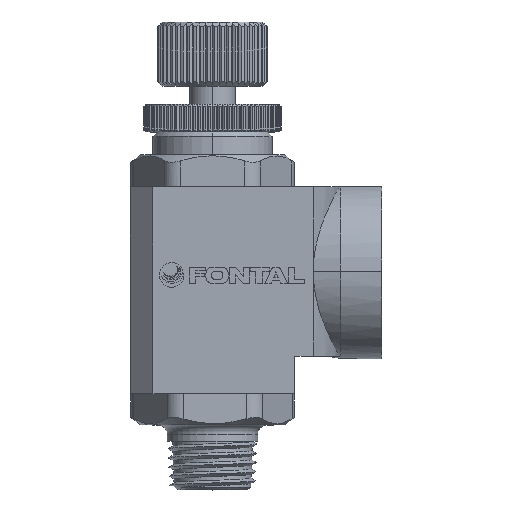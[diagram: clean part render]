
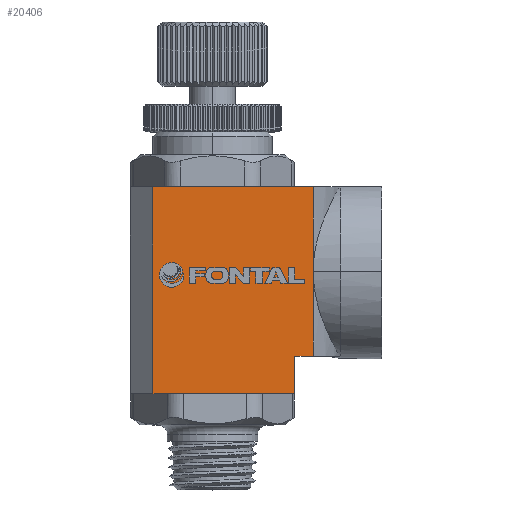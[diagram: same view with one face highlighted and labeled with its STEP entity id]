
A CAD part, top view. The second image highlights one B-rep face of the part: STEP entity #20406.
In plain terms, the highlighted planar face has unit normal (0, 0, 1).
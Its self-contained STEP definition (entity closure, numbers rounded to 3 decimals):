
#34 = VERTEX_POINT ( 'NONE', #5061 ) ;
#584 = LINE ( 'NONE', #20075, #6306 ) ;
#1358 = EDGE_CURVE ( 'NONE', #13882, #24447, #584, .T. ) ;
#1534 = LINE ( 'NONE', #5558, #4065 ) ;
#2242 = ORIENTED_EDGE ( 'NONE', *, *, #18010, .T. ) ;
#2433 = EDGE_CURVE ( 'NONE', #4908, #13882, #26165, .T. ) ;
#3369 = CARTESIAN_POINT ( 'NONE',  ( -9., 0., 9. ) ) ;
#3754 = DIRECTION ( 'NONE',  ( 1., 0., 0. ) ) ;
#4065 = VECTOR ( 'NONE', #3754, 1000. ) ;
#4731 = CARTESIAN_POINT ( 'NONE',  ( 11., 22.6, 9. ) ) ;
#4856 = EDGE_CURVE ( 'NONE', #5436, #14167, #10897, .T. ) ;
#4908 = VERTEX_POINT ( 'NONE', #13995 ) ;
#5061 = CARTESIAN_POINT ( 'NONE',  ( -6.5, 22.6, 9. ) ) ;
#5436 = VERTEX_POINT ( 'NONE', #17758 ) ;
#5558 = CARTESIAN_POINT ( 'NONE',  ( 11., 4.1, 9. ) ) ;
#5936 = VECTOR ( 'NONE', #6354, 1000. ) ;
#6306 = VECTOR ( 'NONE', #7964, 1000. ) ;
#6354 = DIRECTION ( 'NONE',  ( -1., 0., 0. ) ) ;
#6700 = PLANE ( 'NONE',  #24998 ) ;
#7218 = EDGE_CURVE ( 'NONE', #23900, #5436, #19084, .T. ) ;
#7603 = DIRECTION ( 'NONE',  ( 1., 0., 0. ) ) ;
#7964 = DIRECTION ( 'NONE',  ( 0., 1., 0. ) ) ;
#8551 = ORIENTED_EDGE ( 'NONE', *, *, #2433, .T. ) ;
#8589 = LINE ( 'NONE', #10848, #17157 ) ;
#9404 = EDGE_CURVE ( 'NONE', #24447, #34, #12857, .T. ) ;
#10082 = DIRECTION ( 'NONE',  ( 0., 1., 0. ) ) ;
#10491 = CARTESIAN_POINT ( 'NONE',  ( -9., 22.6, 9. ) ) ;
#10848 = CARTESIAN_POINT ( 'NONE',  ( -6.5, 0., 9. ) ) ;
#10897 = LINE ( 'NONE', #15863, #20093 ) ;
#12001 = CARTESIAN_POINT ( 'NONE',  ( 9., 4.1, 9. ) ) ;
#12255 = VECTOR ( 'NONE', #10082, 1000. ) ;
#12732 = EDGE_LOOP ( 'NONE', ( #18105, #19286, #17169, #19848, #2242, #8551, #21999 ) ) ;
#12802 = DIRECTION ( 'NONE',  ( 0., 0., -1. ) ) ;
#12857 = LINE ( 'NONE', #10491, #5936 ) ;
#13066 = DIRECTION ( 'NONE',  ( 0., -1., 0. ) ) ;
#13072 = FACE_OUTER_BOUND ( 'NONE', #12732, .T. ) ;
#13452 = EDGE_CURVE ( 'NONE', #34, #23900, #8589, .T. ) ;
#13882 = VERTEX_POINT ( 'NONE', #18096 ) ;
#13995 = CARTESIAN_POINT ( 'NONE',  ( 11., 4.1, 9. ) ) ;
#14167 = VERTEX_POINT ( 'NONE', #12001 ) ;
#14757 = CARTESIAN_POINT ( 'NONE',  ( 0., 0., 9. ) ) ;
#15863 = CARTESIAN_POINT ( 'NONE',  ( 9., 4.1, 9. ) ) ;
#17145 = CARTESIAN_POINT ( 'NONE',  ( -6.5, 0., 9. ) ) ;
#17157 = VECTOR ( 'NONE', #13066, 1000. ) ;
#17169 = ORIENTED_EDGE ( 'NONE', *, *, #7218, .T. ) ;
#17758 = CARTESIAN_POINT ( 'NONE',  ( 9., 0., 9. ) ) ;
#17836 = VECTOR ( 'NONE', #7603, 1000. ) ;
#18010 = EDGE_CURVE ( 'NONE', #14167, #4908, #1534, .T. ) ;
#18096 = CARTESIAN_POINT ( 'NONE',  ( 11., 13.35, 9. ) ) ;
#18105 = ORIENTED_EDGE ( 'NONE', *, *, #9404, .T. ) ;
#19084 = LINE ( 'NONE', #3369, #17836 ) ;
#19286 = ORIENTED_EDGE ( 'NONE', *, *, #13452, .T. ) ;
#19848 = ORIENTED_EDGE ( 'NONE', *, *, #4856, .T. ) ;
#20075 = CARTESIAN_POINT ( 'NONE',  ( 11., 22.6, 9. ) ) ;
#20093 = VECTOR ( 'NONE', #22089, 1000. ) ;
#20406 = ADVANCED_FACE ( 'NONE', ( #13072 ), #6700, .F. ) ;
#21999 = ORIENTED_EDGE ( 'NONE', *, *, #1358, .T. ) ;
#22089 = DIRECTION ( 'NONE',  ( 0., 1., 0. ) ) ;
#22445 = CARTESIAN_POINT ( 'NONE',  ( 11., 22.6, 9. ) ) ;
#22586 = DIRECTION ( 'NONE',  ( -1., 0., 0. ) ) ;
#23900 = VERTEX_POINT ( 'NONE', #17145 ) ;
#24447 = VERTEX_POINT ( 'NONE', #4731 ) ;
#24998 = AXIS2_PLACEMENT_3D ( 'NONE', #14757, #12802, #22586 ) ;
#26165 = LINE ( 'NONE', #22445, #12255 ) ;
